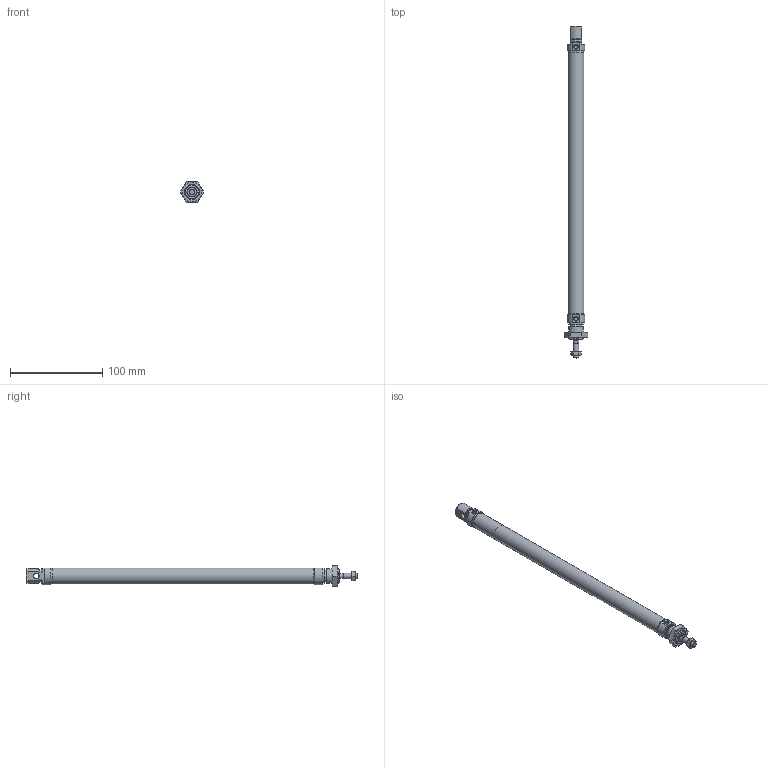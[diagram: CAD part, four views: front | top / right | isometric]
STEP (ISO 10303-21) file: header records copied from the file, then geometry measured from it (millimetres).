
FILE_DESCRIPTION(/* description */ ('Unknown'),/* implementation_level */ '2;1');
FILE_NAME(/* name */ 'RIM 16_250',/* time_stamp */ '2024-08-27T07:23:54+02:00',/* author */ ('Unknown'),/* organization */ ('Unknown'),/* preprocessor_version */ 'ST-DEVELOPER v16.7',/* originating_system */ 'Solid Edge',/* authorisation */ 'Unknown');
FILE_SCHEMA (('AUTOMOTIVE_DESIGN {1 0 10303 214 3 1 1}'));
Length unit declared in the file: millimetre
Products named in the file (7): RIM 16_250; Profilrohr; Kolbenstange; Kit_1; Kit_2; Mutter_1; Mutter_2
Assembly tree (6 placements, depth 2):
  RIM 16_250
    Profilrohr
    Kolbenstange
    Kit_1
    Kit_2
    Mutter_1
    Mutter_2
Bounding box: 25.4 x 359 x 22 mm (x, y, z)
Volume: 37145.8 mm3; surface area: 43748.7 mm2
Topology: 6 solids, 6 shells, 137 faces, 296 edges, 184 vertices
Faces by surface type: plane 57, cone 40, cylinder 33, torus 7
Full cylindrical faces by diameter (mm): 4.12 x1, 4.134 x3, 4.917 x1, 6 x3, 6.5 x1, 7.1 x1, 9 x1, 9.1 x1, 11.1 x1, 11.2 x1, 13.7 x1, 14.376 x1, 16 x4, 17.2 x2, 17.27 x1
Entity records: 4375 total; most frequent: CARTESIAN_POINT 649, DIRECTION 588, ORIENTED_EDGE 458, AXIS2_PLACEMENT_3D 261, EDGE_CURVE 229, FACE_BOUND 213, EDGE_LOOP 212, VERTEX_POINT 172
